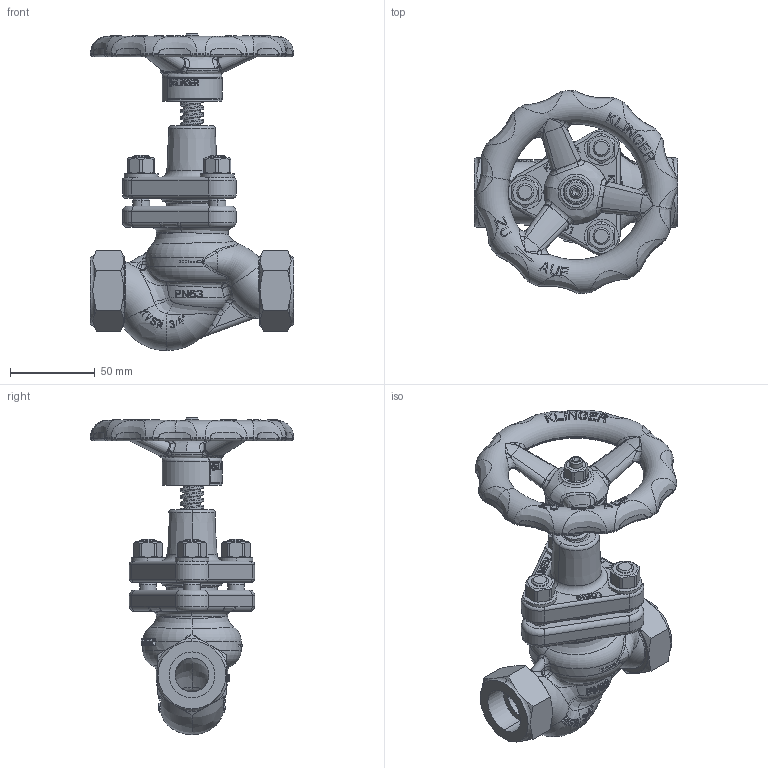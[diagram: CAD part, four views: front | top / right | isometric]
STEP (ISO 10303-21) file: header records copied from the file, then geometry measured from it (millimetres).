
FILE_DESCRIPTION((''),'2;1');
FILE_NAME('KVSN-S34S-----P063PGG_SW0001','2018-12-12T11:26:44',('jeitlers'),('KLINGER'),'CREO PARAMETRIC BY PTC INC, 2018190','CREO PARAMETRIC BY PTC INC, 2018190','');
FILE_SCHEMA(('AUTOMOTIVE_DESIGN { 1 0 10303 214 1 1 1 1 }'));
Products named in the file (1): KVSN-S34S-----P063PGG_SW0001
Bounding box: 120 x 119.87 x 187.25 mm (x, y, z)
Volume: 308620.1 mm3; surface area: 107834.5 mm2
Topology: 3 solids, 10 shells, 2898 faces, 7776 edges, 5006 vertices
Faces by surface type: plane 1779, bspline 437, cylinder 326, torus 195, cone 143, extrusion 12, sphere 6
Entity records: 156173 total; most frequent: CARTESIAN_POINT 89356, ORIENTED_EDGE 15544, DIRECTION 11076, EDGE_CURVE 7772, VERTEX_POINT 5006, AXIS2_PLACEMENT_3D 3784, VECTOR 3505, LINE 3493
